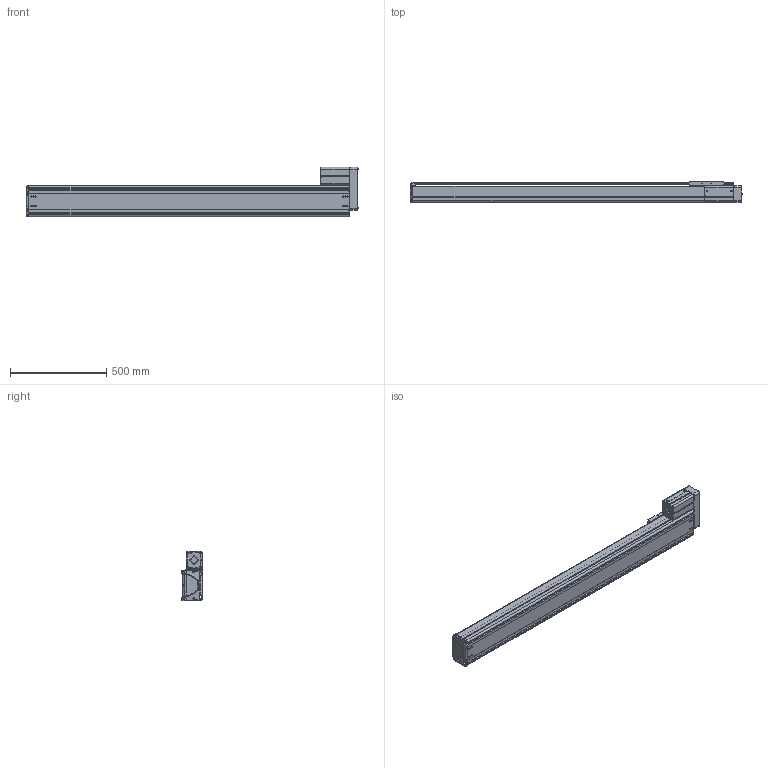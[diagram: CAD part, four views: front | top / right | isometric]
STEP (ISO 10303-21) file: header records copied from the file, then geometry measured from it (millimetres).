
FILE_DESCRIPTION((''),'2;1');
FILE_NAME('BE50F-UR-M_N-E0_IGS_PRT','2017-06-18T',(' '),(''),'PRO/ENGINEER BY PARAMETRIC TECHNOLOGY CORPORATION, 2015030','PRO/ENGINEER BY PARAMETRIC TECHNOLOGY CORPORATION, 2015030','');
FILE_SCHEMA(('CONFIG_CONTROL_DESIGN'));
Length unit declared in the file: millimetre
Products named in the file (1): BE50F-UR-M_N-E0_IGS_PRT
Bounding box: 1725.88 x 110 x 257 mm (x, y, z)
Volume: 6565268.5 mm3; surface area: 2803895.6 mm2
Topology: 7 solids, 159 shells, 2336 faces, 6426 edges, 4219 vertices
Faces by surface type: cylinder 1038, plane 1014, cone 145, torus 59, bspline 48, sphere 32
Entity records: 78185 total; most frequent: CARTESIAN_POINT 18168, DIRECTION 12479, ORIENTED_EDGE 12223, EDGE_CURVE 6388, AXIS2_PLACEMENT_3D 4470, VERTEX_POINT 4215, VECTOR 3539, LINE 3539
